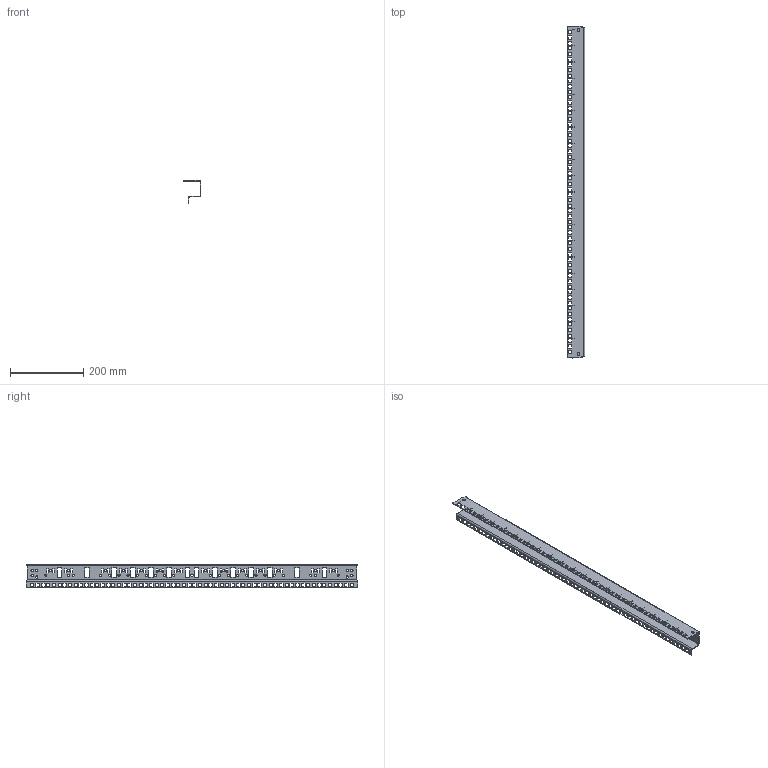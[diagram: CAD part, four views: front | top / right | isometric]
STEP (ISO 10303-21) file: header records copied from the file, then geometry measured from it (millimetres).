
FILE_DESCRIPTION (( 'STEP AP203' ), '1' );
FILE_NAME ('p2ra19s10.STEP', '2017-12-06T14:15:49', ( '' ), ( '' ), 'SwSTEP 2.0', 'SolidWorks 2014', '' );
FILE_SCHEMA (( 'CONFIG_CONTROL_DESIGN' ));
Length unit declared in the file: inch
Products named in the file (2): 89161359; p2ra19s10
Assembly tree (1 placements, depth 2):
  p2ra19s10
    89161359
Bounding box: 48.11 x 908.7 x 63.2 mm (x, y, z)
Volume: 194076.5 mm3; surface area: 229967.1 mm2
Topology: 1 solids, 1 shells, 856 faces, 2494 edges, 1660 vertices
Faces by surface type: plane 752, cylinder 104
Entity records: 28926 total; most frequent: CARTESIAN_POINT 5014, ORIENTED_EDGE 4988, DIRECTION 4422, EDGE_CURVE 2494, LINE 2286, VECTOR 2286, VERTEX_POINT 1660, EDGE_LOOP 1298
